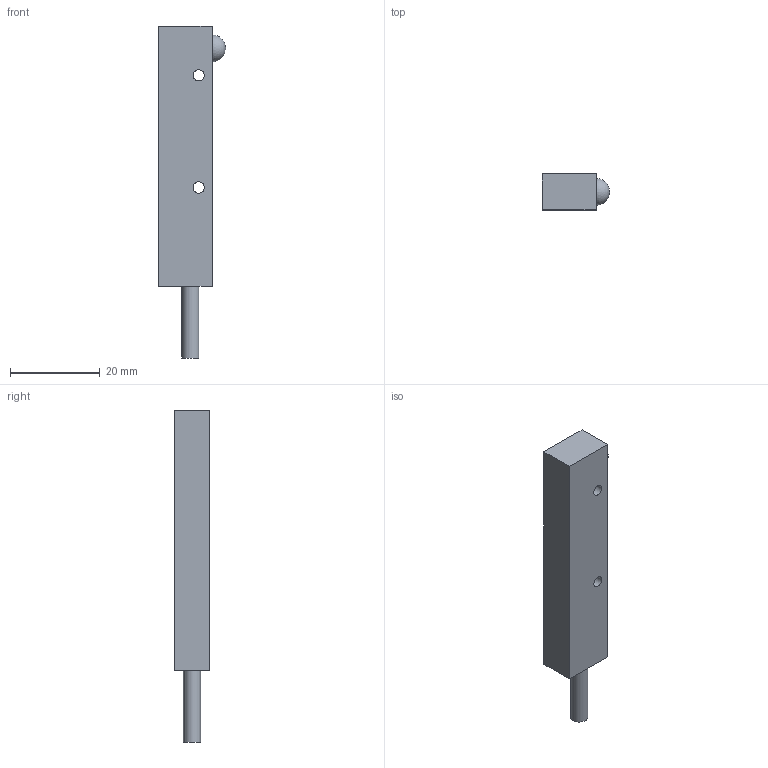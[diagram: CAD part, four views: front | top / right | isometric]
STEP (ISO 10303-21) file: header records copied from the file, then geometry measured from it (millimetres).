
FILE_DESCRIPTION( ( 'Unknown' ), '1' );
FILE_NAME( '//Server-file-1/e_me/Solid Edge/Models/Dokumentationen/Opto/FxDM08/Vereinfachte Modelle/Neutralformate/FxDM08_Kabel_Linse.stp', 'Unknown', ( 'Unknown' ), ( 'Unknown' ), 'XStep 1.0', 'Unknown', ' ' );
FILE_SCHEMA( ( 'CONFIG_CONTROL_DESIGN' ) );
Length unit declared in the file: millimetre
Products named in the file (1): 1
Bounding box: 15 x 8 x 74 mm (x, y, z)
Volume: 5726.7 mm3; surface area: 2841.3 mm2
Topology: 1 solids, 1 shells, 14 faces, 29 edges, 19 vertices
Faces by surface type: plane 8, cylinder 5, sphere 1
Full cylindrical faces by diameter (mm): 2.5 x2, 3.8 x1, 6 x1, 6.8 x1
Entity records: 389 total; most frequent: DIRECTION 62, CARTESIAN_POINT 55, ORIENTED_EDGE 44, EDGE_LOOP 26, AXIS2_PLACEMENT_3D 25, EDGE_CURVE 22, FACE_OUTER_BOUND 19, VERTEX_POINT 18
